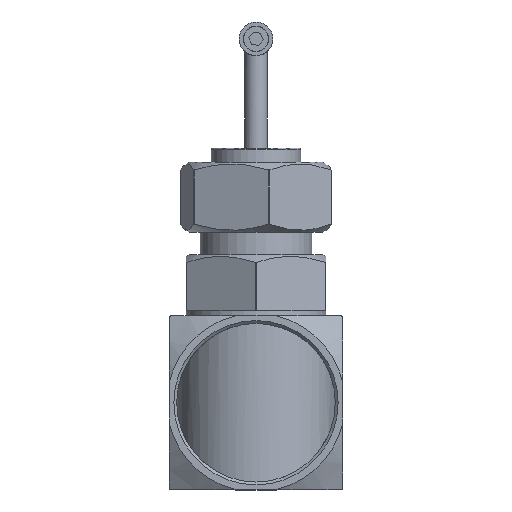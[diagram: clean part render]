
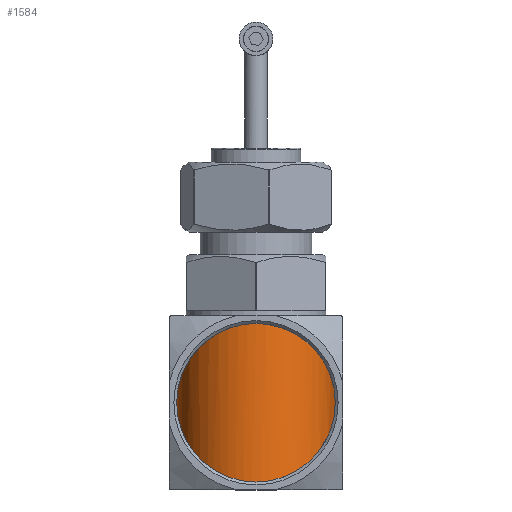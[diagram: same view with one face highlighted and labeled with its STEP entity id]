
A CAD part, top view. The second image highlights one B-rep face of the part: STEP entity #1584.
In plain terms, the highlighted cylindrical face has radius 28.328 mm (diameter 56.657 mm), a partial arc.
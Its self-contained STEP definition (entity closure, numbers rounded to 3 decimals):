
#1584=ADVANCED_FACE('',(#3951),#3953,.T.);
#3951=FACE_BOUND('',#3952,.T.);
#3952=EDGE_LOOP('',(#4789,#4790,#4791));
#3953=CYLINDRICAL_SURFACE('',#3954,28.329);
#3954=AXIS2_PLACEMENT_3D('',#3955,#3956,#3957);
#3955=CARTESIAN_POINT('',(0.,-31.,0.));
#3956=DIRECTION('',(0.,1.,0.));
#3957=DIRECTION('',(0.,0.,1.));
#4789=ORIENTED_EDGE('',*,*,#5039,.F.);
#4790=ORIENTED_EDGE('',*,*,#5038,.F.);
#4791=ORIENTED_EDGE('',*,*,#5040,.F.);
#5038=EDGE_CURVE('',#5571,#5572,#5573,.T.);
#5039=EDGE_CURVE('',#5572,#5574,#5575,.T.);
#5040=EDGE_CURVE('',#5574,#5571,#5576,.T.);
#5571=VERTEX_POINT('',#8742);
#5572=VERTEX_POINT('',#8743);
#5573=(BOUNDED_CURVE()B_SPLINE_CURVE(3,
(#8744,#8745,#8746,#8747),
.UNSPECIFIED.,.F.,.F.)B_SPLINE_CURVE_WITH_KNOTS((4,4),
(0.,1.),
.UNSPECIFIED.)CURVE()GEOMETRIC_REPRESENTATION_ITEM()RATIONAL_B_SPLINE_CURVE((1.,
0.333,0.333,1.))REPRESENTATION_ITEM(''));
#5574=VERTEX_POINT('',#8748);
#5575=(BOUNDED_CURVE()B_SPLINE_CURVE(3,
(#8749,#8750,#8751,#8752),
.UNSPECIFIED.,.F.,.F.)B_SPLINE_CURVE_WITH_KNOTS((4,4),
(0.,1.),
.UNSPECIFIED.)CURVE()GEOMETRIC_REPRESENTATION_ITEM()RATIONAL_B_SPLINE_CURVE((1.,
0.805,0.805,1.))REPRESENTATION_ITEM(''));
#5576=(BOUNDED_CURVE()B_SPLINE_CURVE(3,
(#8753,#8754,#8755,#8756),
.UNSPECIFIED.,.F.,.F.)B_SPLINE_CURVE_WITH_KNOTS((4,4),
(0.,1.),
.UNSPECIFIED.)CURVE()GEOMETRIC_REPRESENTATION_ITEM()RATIONAL_B_SPLINE_CURVE((1.,
0.805,0.805,1.))REPRESENTATION_ITEM(''));
#8742=CARTESIAN_POINT('',(28.328,0.,0.));
#8743=CARTESIAN_POINT('',(-28.329,0.,0.));
#8744=CARTESIAN_POINT('',(28.328,0.,0.));
#8745=CARTESIAN_POINT('',(28.328,-56.657,56.657));
#8746=CARTESIAN_POINT('',(-28.329,-56.657,56.657));
#8747=CARTESIAN_POINT('',(-28.329,0.,0.));
#8748=CARTESIAN_POINT('',(0.,28.329,28.328));
#8749=CARTESIAN_POINT('',(-28.329,0.,0.));
#8750=CARTESIAN_POINT('',(-28.329,16.594,16.594));
#8751=CARTESIAN_POINT('',(-16.595,28.329,28.328));
#8752=CARTESIAN_POINT('',(0.,28.329,28.328));
#8753=CARTESIAN_POINT('',(0.,28.329,28.328));
#8754=CARTESIAN_POINT('',(16.594,28.329,28.328));
#8755=CARTESIAN_POINT('',(28.328,16.594,16.594));
#8756=CARTESIAN_POINT('',(28.328,0.,0.));
